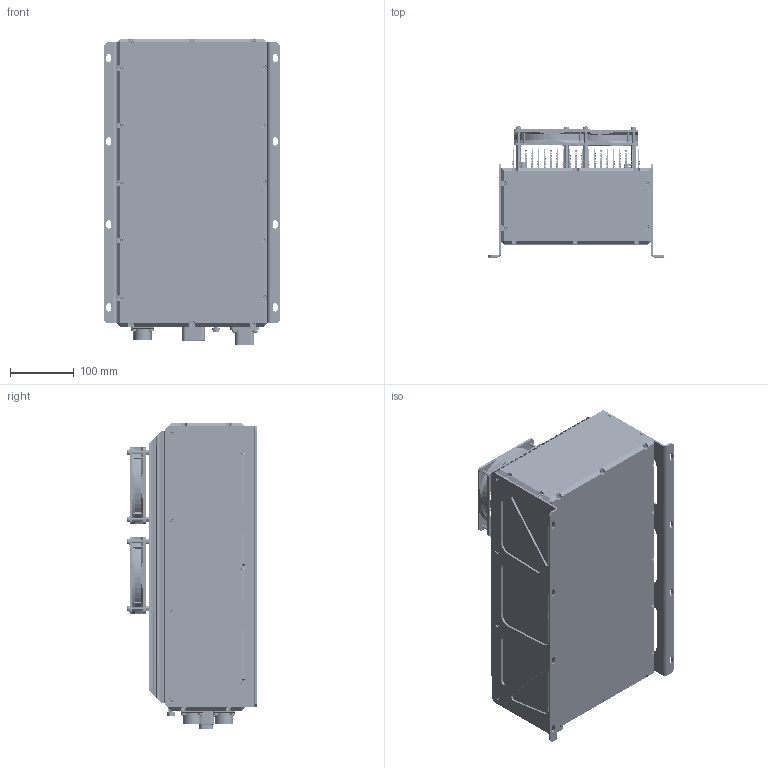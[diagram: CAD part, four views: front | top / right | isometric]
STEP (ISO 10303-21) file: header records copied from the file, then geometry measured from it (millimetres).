
FILE_DESCRIPTION (( 'STEP AP214' ), '1' );
FILE_NAME ('ﾐﾃﾋﾑ.435351.001-001 ﾑﾀﾝ-ﾏﾑﾍ6-07ﾈ-ﾀ2.STEP', '2026-08-24T13:03:23', ( '' ), ( '' ), 'SwSTEP 2.0', 'SolidWorks 2022', '' );
FILE_SCHEMA (( 'AUTOMOTIVE_DESIGN' ));
Length unit declared in the file: millimetre
Products named in the file (1): РГЛС.435351.001-001 САЭ-ПСН6-07И-А2
Bounding box: 275 x 204.62 x 478.5 mm (x, y, z)
Volume: 13592834.2 mm3; surface area: 1362015.2 mm2
Topology: 142 solids, 143 shells, 7527 faces, 19543 edges, 12185 vertices
Faces by surface type: plane 3340, cylinder 2526, cone 997, torus 406, bspline 212, sphere 46
Entity records: 328998 total; most frequent: CARTESIAN_POINT 64583, ORIENTED_EDGE 38506, DIRECTION 37187, EDGE_CURVE 19253, AXIS2_PLACEMENT_3D 13503, VERTEX_POINT 12183, VECTOR 10181, LINE 10181
